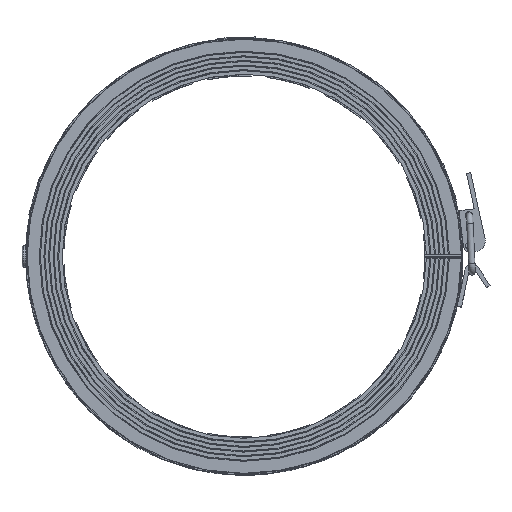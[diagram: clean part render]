
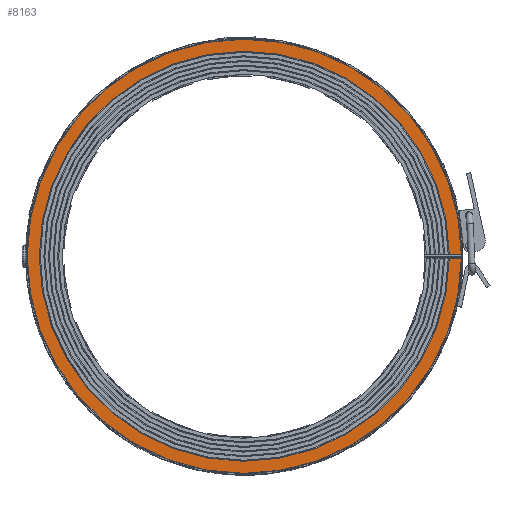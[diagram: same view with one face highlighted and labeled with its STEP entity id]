
A CAD part, top view. The second image highlights one B-rep face of the part: STEP entity #8163.
In plain terms, the highlighted planar face has unit normal (0, 0, 1).
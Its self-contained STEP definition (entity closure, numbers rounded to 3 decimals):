
#142=PLANE('',#8690);
#636=LINE('',#12709,#1329);
#637=LINE('',#12712,#1330);
#1329=VECTOR('',#10119,5.667);
#1330=VECTOR('',#10122,5.667);
#2147=FACE_OUTER_BOUND('',#2621,.T.);
#2621=EDGE_LOOP('',(#6052,#6053,#6054,#6055));
#2977=CIRCLE('',#8688,96.582);
#2978=CIRCLE('',#8691,102.25);
#3576=VERTEX_POINT('',#12699);
#3577=VERTEX_POINT('',#12701);
#3578=VERTEX_POINT('',#12708);
#3579=VERTEX_POINT('',#12710);
#4477=EDGE_CURVE('',#3577,#3576,#2977,.T.);
#4481=EDGE_CURVE('',#3578,#3576,#636,.T.);
#4482=EDGE_CURVE('',#3579,#3578,#2978,.T.);
#4483=EDGE_CURVE('',#3577,#3579,#637,.T.);
#6052=ORIENTED_EDGE('',*,*,#4477,.T.);
#6053=ORIENTED_EDGE('',*,*,#4481,.F.);
#6054=ORIENTED_EDGE('',*,*,#4482,.F.);
#6055=ORIENTED_EDGE('',*,*,#4483,.F.);
#8163=ADVANCED_FACE('',(#2147),#142,.T.);
#8688=AXIS2_PLACEMENT_3D('',#12702,#10110,#10111);
#8690=AXIS2_PLACEMENT_3D('',#12707,#10117,#10118);
#8691=AXIS2_PLACEMENT_3D('',#12711,#10120,#10121);
#10110=DIRECTION('center_axis',(0.,0.,
-1.));
#10111=DIRECTION('ref_axis',(1.,0.01,0.));
#10117=DIRECTION('center_axis',(0.,0.,
1.));
#10118=DIRECTION('ref_axis',(1.,0.,0.));
#10119=DIRECTION('',(-1.,0.,0.));
#10120=DIRECTION('center_axis',(0.,0.,-1.));
#10121=DIRECTION('ref_axis',(1.,0.01,0.));
#10122=DIRECTION('',(1.,0.,0.));
#12699=CARTESIAN_POINT('',(96.578,1.,40.));
#12701=CARTESIAN_POINT('',(96.578,-1.,40.));
#12702=CARTESIAN_POINT('Origin',(0.001,0.,
40.));
#12707=CARTESIAN_POINT('Origin',(10.666,0.,
40.));
#12708=CARTESIAN_POINT('',(102.245,1.,40.));
#12709=CARTESIAN_POINT('',(85.744,1.,40.));
#12710=CARTESIAN_POINT('',(102.245,-1.,40.));
#12711=CARTESIAN_POINT('Origin',(0.,0.,40.));
#12712=CARTESIAN_POINT('',(102.245,-1.,40.));
